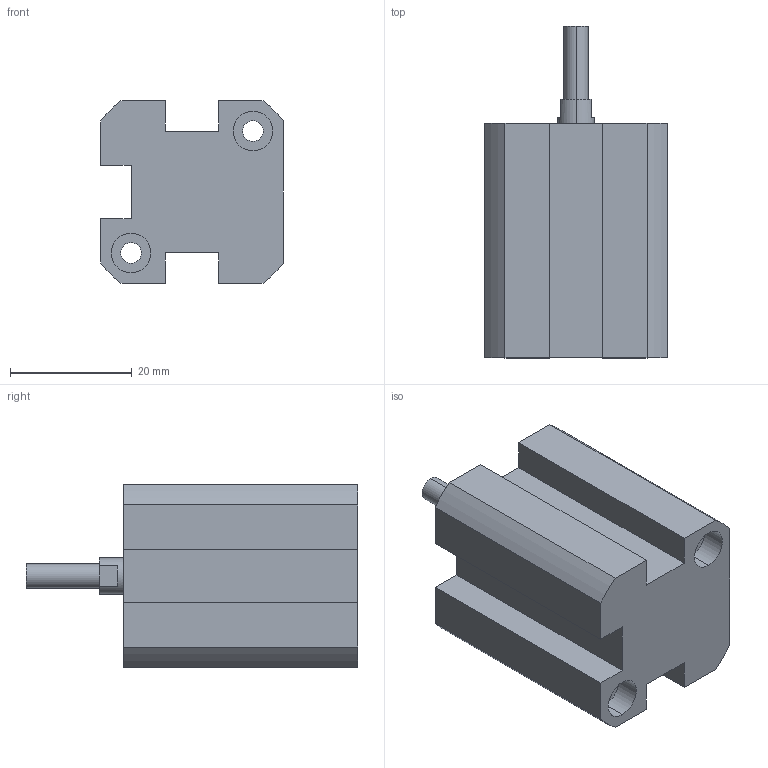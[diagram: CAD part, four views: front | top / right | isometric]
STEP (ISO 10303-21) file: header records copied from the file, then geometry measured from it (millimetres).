
FILE_DESCRIPTION (( 'STEP AP203' ), '1' );
FILE_NAME ('XG#M2-16-10.STEP', '2016-05-24T02:10:19', ( '' ), ( '' ), 'SwSTEP 2.0', 'SolidWorks 2014', '' );
FILE_SCHEMA (( 'CONFIG_CONTROL_DESIGN' ));
Length unit declared in the file: millimetre
Products named in the file (1): XG#M2-16-10
Bounding box: 30 x 54.5 x 30 mm (x, y, z)
Volume: 27291.4 mm3; surface area: 8655.5 mm2
Topology: 1 solids, 1 shells, 76 faces, 187 edges, 121 vertices
Faces by surface type: cylinder 39, plane 33, cone 4
Entity records: 2331 total; most frequent: DIRECTION 420, CARTESIAN_POINT 381, ORIENTED_EDGE 366, EDGE_CURVE 183, AXIS2_PLACEMENT_3D 160, VERTEX_POINT 121, LINE 100, VECTOR 100
